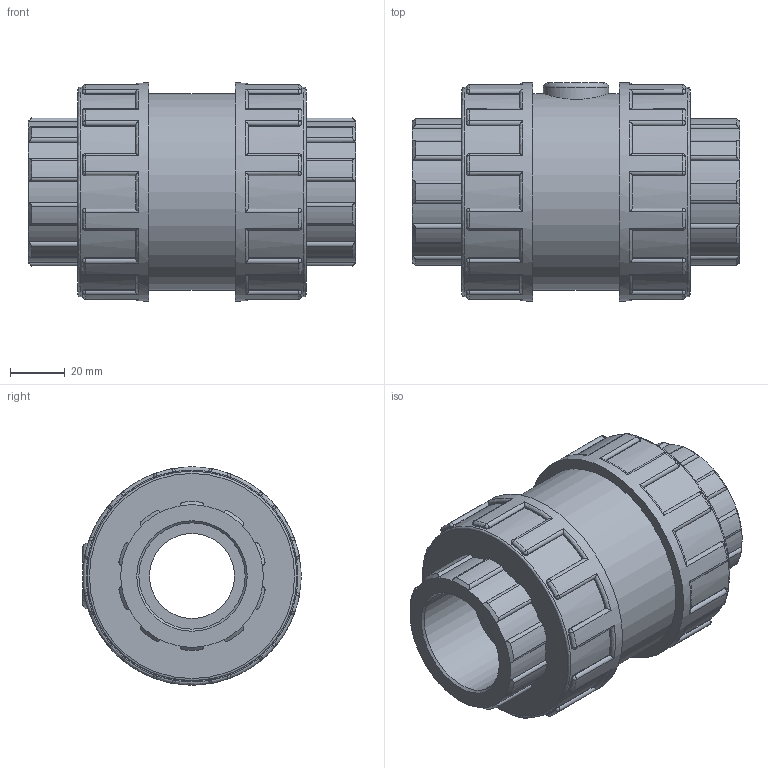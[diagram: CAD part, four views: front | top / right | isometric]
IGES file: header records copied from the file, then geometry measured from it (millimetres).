
Global section: file name: 11081018.ipt; native system: Autodesk Inventor 2015; preprocessor: unknown; author: KIM; date: 20171207.170054; units: millimetre
Bounding box: 120 x 80 x 80 mm (x, y, z)
Volume: 348502.7 mm3; surface area: 50688.4 mm2
Topology: 1 solids, 1 shells, 411 faces, 1033 edges, 630 vertices
Faces by surface type: cylinder 182, plane 105, revolution 56, sphere 48, cone 20
Full cylindrical faces by diameter (mm): 24 x1, 72 x1, 76.8 x2, 80 x2
